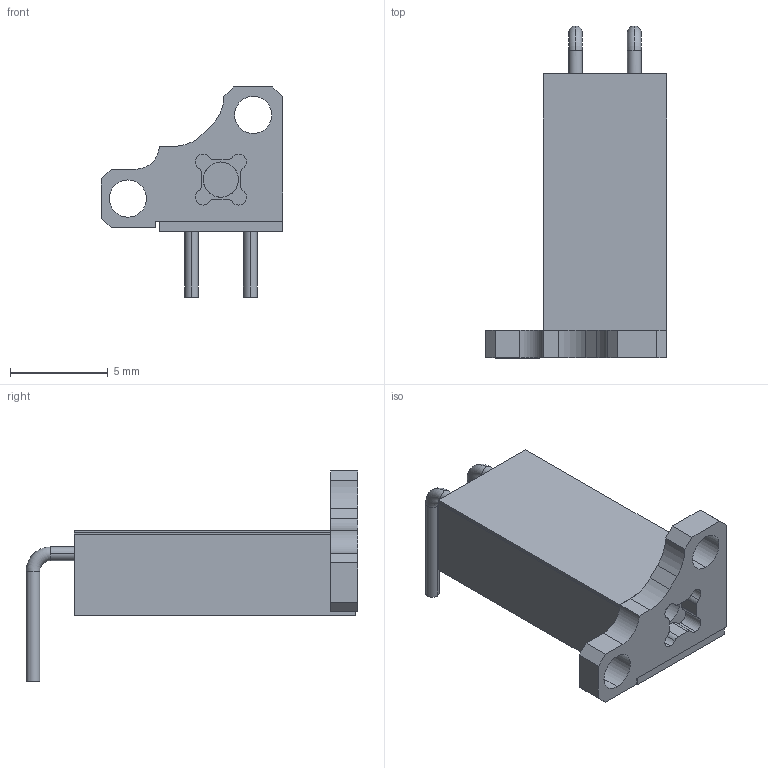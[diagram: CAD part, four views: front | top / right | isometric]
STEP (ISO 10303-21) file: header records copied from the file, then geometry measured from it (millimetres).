
FILE_DESCRIPTION (( 'STEP AP203' ), '1' );
FILE_NAME ('M14M俋倛.STEP', '2025-05-20T08:24:44', ( '' ), ( '' ), 'SwSTEP 2.0', 'SolidWorks 2022', '' );
FILE_SCHEMA (( 'CONFIG_CONTROL_DESIGN' ));
Length unit declared in the file: millimetre
Products named in the file (5): M14S壳体新.STEP; M14M外形; 上盖.STEP; 波珠.STEP; 引线针.STEP
Assembly tree (6 placements, depth 2):
  M14M外形
    波珠.STEP  x2
    引线针.STEP  x2
    M14S壳体新.STEP
    上盖.STEP
Bounding box: 9.25 x 16.95 x 10.73 mm (x, y, z)
Volume: 425.8 mm3; surface area: 692.7 mm2
Topology: 6 solids, 6 shells, 144 faces, 370 edges, 245 vertices
Faces by surface type: plane 81, cylinder 55, bspline 4, torus 4
Entity records: 4582 total; most frequent: CARTESIAN_POINT 1003, ORIENTED_EDGE 636, DIRECTION 615, EDGE_CURVE 318, AXIS2_PLACEMENT_3D 217, VERTEX_POINT 211, LINE 181, VECTOR 181
